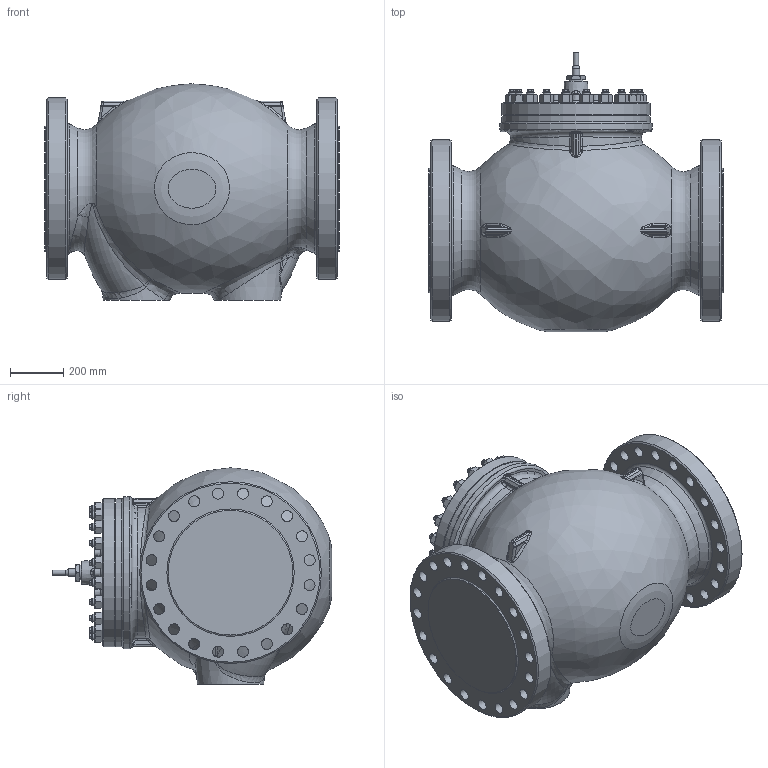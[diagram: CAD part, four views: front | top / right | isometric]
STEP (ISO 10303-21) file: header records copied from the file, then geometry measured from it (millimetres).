
FILE_DESCRIPTION(/* description */ (''),/* implementation_level */ '2;1');
FILE_NAME(/* name */ 'CV3xx_NPS_16_priruba_CL600.stp',/* time_stamp */ '2017-05-04T07:26:58+02:00',/* author */ (''),/* organization */ (''),/* preprocessor_version */ 'ST-DEVELOPER v15',/* originating_system */ 'SIEMENS PLM Software NX 8.5',/* authorisation */ '');
FILE_SCHEMA (('AP203_CONFIGURATION_CONTROLLED_3D_DESIGN_OF_MECHANICAL_PARTS_AND_ASSEMBLIES_MIM_LF { 1 0 10303 403 2 1 2}'));
Length unit declared in the file: millimetre
Products named in the file (1): adam0988A6FEes2o
Bounding box: 1108 x 1054.5 x 815 mm (x, y, z)
Volume: 414165848.5 mm3; surface area: 4869211.1 mm2
Topology: 1 solids, 1 shells, 1481 faces, 3623 edges, 2228 vertices
Faces by surface type: plane 497, cone 482, cylinder 244, bspline 110, torus 77, extrusion 51, sphere 20
Full cylindrical faces by diameter (mm): 14.376 x2, 17.97 x4, 20 x1, 23.5 x20, 26.158 x16, 28 x1, 29.522 x40, 32 x1, 33 x20, 36 x1, 39 x1, 41.3 x40, 46 x40, 56 x1, 426 x1, 469.9 x2, 558 x2, 574 x1, 685 x2
Entity records: 45890 total; most frequent: CARTESIAN_POINT 16214, ORIENTED_EDGE 5980, DIRECTION 5497, EDGE_CURVE 2990, AXIS2_PLACEMENT_3D 2411, EDGE_LOOP 2050, VERTEX_POINT 1982, ADVANCED_FACE 1481
